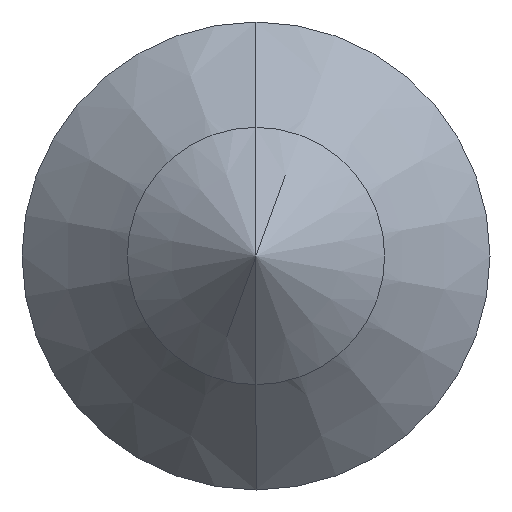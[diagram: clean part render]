
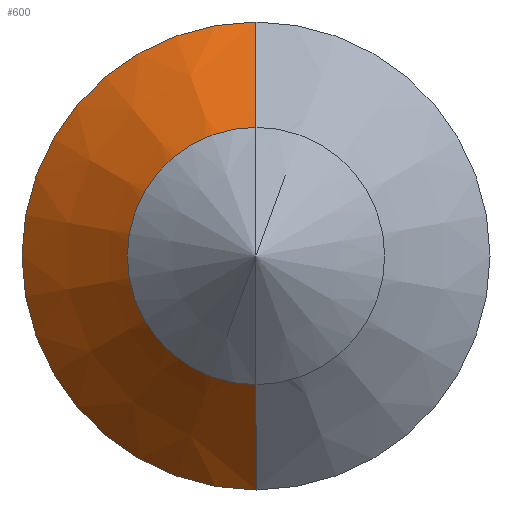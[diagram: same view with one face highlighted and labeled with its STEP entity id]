
A CAD part, left-side view. The second image highlights one B-rep face of the part: STEP entity #600.
In plain terms, the highlighted conical face has half-angle 45 degrees and reference radius 2 mm.
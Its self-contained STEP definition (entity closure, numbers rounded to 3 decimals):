
#38 = EDGE_CURVE ( 'NONE', #1484, #193, #463, .T. ) ;
#44 = CARTESIAN_POINT ( 'NONE',  ( -1.1, 0., -0.9 ) ) ;
#67 = CARTESIAN_POINT ( 'NONE',  ( 0., 0., 0. ) ) ;
#115 = CARTESIAN_POINT ( 'NONE',  ( -1.1, 0., 0.9 ) ) ;
#134 = AXIS2_PLACEMENT_3D ( 'NONE', #284, #1133, #406 ) ;
#171 = EDGE_CURVE ( 'NONE', #193, #1487, #309, .T. ) ;
#193 = VERTEX_POINT ( 'NONE', #44 ) ;
#206 = CIRCLE ( 'NONE', #402, 2. ) ;
#212 = VERTEX_POINT ( 'NONE', #1022 ) ;
#251 = CARTESIAN_POINT ( 'NONE',  ( 0., 0., -2. ) ) ;
#284 = CARTESIAN_POINT ( 'NONE',  ( -1.1, 0., 0. ) ) ;
#309 = LINE ( 'NONE', #251, #917 ) ;
#347 = DIRECTION ( 'NONE',  ( -1., 0., 0. ) ) ;
#369 = CARTESIAN_POINT ( 'NONE',  ( 0., 0., -2. ) ) ;
#402 = AXIS2_PLACEMENT_3D ( 'NONE', #1060, #347, #1180 ) ;
#406 = DIRECTION ( 'NONE',  ( 0., 0., 1. ) ) ;
#438 = DIRECTION ( 'NONE',  ( 1., 0., 0. ) ) ;
#463 = CIRCLE ( 'NONE', #134, 0.9 ) ;
#546 = ORIENTED_EDGE ( 'NONE', *, *, #1562, .T. ) ;
#600 = ADVANCED_FACE ( 'NONE', ( #876 ), #1388, .T. ) ;
#616 = VECTOR ( 'NONE', #1468, 1000. ) ;
#623 = CARTESIAN_POINT ( 'NONE',  ( 0., 0., 2. ) ) ;
#757 = AXIS2_PLACEMENT_3D ( 'NONE', #67, #438, #802 ) ;
#802 = DIRECTION ( 'NONE',  ( 0., 0., -1. ) ) ;
#876 = FACE_OUTER_BOUND ( 'NONE', #1217, .T. ) ;
#917 = VECTOR ( 'NONE', #1225, 1000. ) ;
#1022 = CARTESIAN_POINT ( 'NONE',  ( 0., 0., 2. ) ) ;
#1060 = CARTESIAN_POINT ( 'NONE',  ( 0., 0., 0. ) ) ;
#1133 = DIRECTION ( 'NONE',  ( -1., 0., 0. ) ) ;
#1177 = LINE ( 'NONE', #623, #616 ) ;
#1180 = DIRECTION ( 'NONE',  ( 0., 0., 1. ) ) ;
#1217 = EDGE_LOOP ( 'NONE', ( #1451, #546, #1544, #1513 ) ) ;
#1225 = DIRECTION ( 'NONE',  ( 0.707, 0., -0.707 ) ) ;
#1300 = EDGE_CURVE ( 'NONE', #212, #1487, #206, .T. ) ;
#1388 = CONICAL_SURFACE ( 'NONE', #757, 2., 0.785 ) ;
#1451 = ORIENTED_EDGE ( 'NONE', *, *, #38, .F. ) ;
#1468 = DIRECTION ( 'NONE',  ( 0.707, 0., 0.707 ) ) ;
#1484 = VERTEX_POINT ( 'NONE', #115 ) ;
#1487 = VERTEX_POINT ( 'NONE', #369 ) ;
#1513 = ORIENTED_EDGE ( 'NONE', *, *, #171, .F. ) ;
#1544 = ORIENTED_EDGE ( 'NONE', *, *, #1300, .T. ) ;
#1562 = EDGE_CURVE ( 'NONE', #1484, #212, #1177, .T. ) ;
